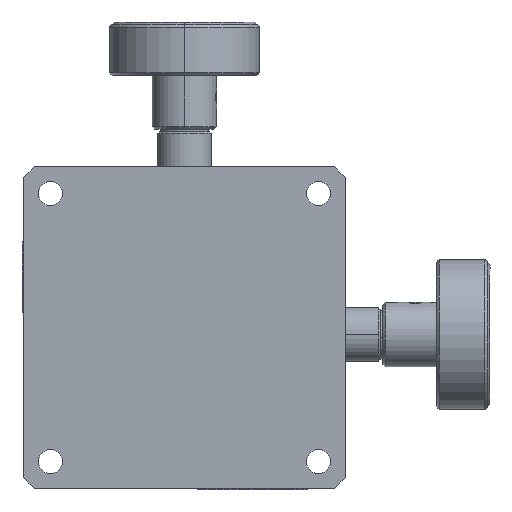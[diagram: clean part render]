
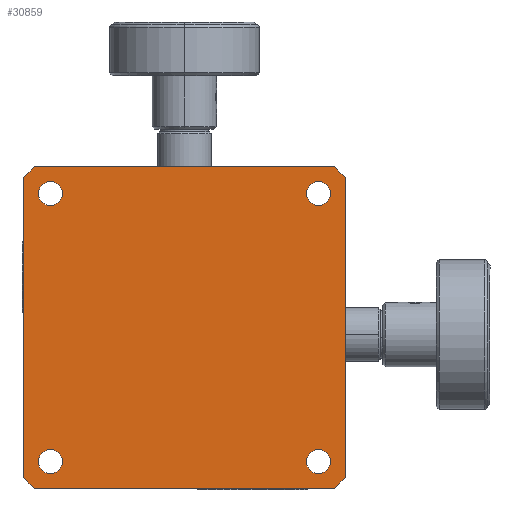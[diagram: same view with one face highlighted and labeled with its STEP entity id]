
A CAD part, front view. The second image highlights one B-rep face of the part: STEP entity #30859.
In plain terms, the highlighted planar face has unit normal (0, -1, 0).
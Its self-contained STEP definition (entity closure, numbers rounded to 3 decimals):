
#28 = VECTOR ( 'NONE', #36987, 1000. ) ;
#290 = CARTESIAN_POINT ( 'NONE',  ( 28., 0., -30. ) ) ;
#938 = AXIS2_PLACEMENT_3D ( 'NONE', #31775, #15721, #53347 ) ;
#987 = EDGE_CURVE ( 'NONE', #50481, #57556, #39465, .T. ) ;
#1346 = CARTESIAN_POINT ( 'NONE',  ( -28., 0., -30. ) ) ;
#2033 = DIRECTION ( 'NONE',  ( 0., 1., 0. ) ) ;
#2373 = DIRECTION ( 'NONE',  ( 0., 1., 0. ) ) ;
#2607 = EDGE_CURVE ( 'NONE', #57556, #50481, #22423, .T. ) ;
#3005 = ORIENTED_EDGE ( 'NONE', *, *, #46063, .T. ) ;
#3677 = ORIENTED_EDGE ( 'NONE', *, *, #59135, .F. ) ;
#4060 = LINE ( 'NONE', #21790, #59577 ) ;
#4122 = CARTESIAN_POINT ( 'NONE',  ( -27.25, 0., -25. ) ) ;
#5023 = CIRCLE ( 'NONE', #61079, 2.25 ) ;
#5026 = CARTESIAN_POINT ( 'NONE',  ( 30., 0., 28. ) ) ;
#5027 = CARTESIAN_POINT ( 'NONE',  ( -30., 0., -28. ) ) ;
#6255 = VECTOR ( 'NONE', #7024, 1000. ) ;
#7024 = DIRECTION ( 'NONE',  ( 0.707, 0., -0.707 ) ) ;
#8751 = EDGE_CURVE ( 'NONE', #46190, #37450, #28849, .T. ) ;
#8871 = CARTESIAN_POINT ( 'NONE',  ( 22.75, 0., 25. ) ) ;
#9264 = DIRECTION ( 'NONE',  ( 1., 0., 0. ) ) ;
#9714 = CARTESIAN_POINT ( 'NONE',  ( 25., 0., 25. ) ) ;
#9971 = CARTESIAN_POINT ( 'NONE',  ( 30., 0., 30. ) ) ;
#12767 = ORIENTED_EDGE ( 'NONE', *, *, #25109, .T. ) ;
#12866 = FACE_BOUND ( 'NONE', #59071, .T. ) ;
#13708 = CARTESIAN_POINT ( 'NONE',  ( 30., 0., -30. ) ) ;
#13745 = CIRCLE ( 'NONE', #29952, 2.25 ) ;
#14010 = ORIENTED_EDGE ( 'NONE', *, *, #50938, .T. ) ;
#14477 = CARTESIAN_POINT ( 'NONE',  ( -22.75, 0., 25. ) ) ;
#15085 = DIRECTION ( 'NONE',  ( 1., 0., 0. ) ) ;
#15672 = CARTESIAN_POINT ( 'NONE',  ( 27.25, 0., 25. ) ) ;
#15721 = DIRECTION ( 'NONE',  ( 0., -1., 0. ) ) ;
#16083 = ORIENTED_EDGE ( 'NONE', *, *, #51397, .F. ) ;
#18238 = VERTEX_POINT ( 'NONE', #34082 ) ;
#18265 = EDGE_CURVE ( 'NONE', #67298, #45121, #66794, .T. ) ;
#18933 = DIRECTION ( 'NONE',  ( 0., 1., 0. ) ) ;
#19284 = EDGE_CURVE ( 'NONE', #21824, #37941, #22919, .T. ) ;
#19525 = VECTOR ( 'NONE', #54539, 1000. ) ;
#19631 = CARTESIAN_POINT ( 'NONE',  ( -25., 0., 25. ) ) ;
#20437 = CIRCLE ( 'NONE', #27649, 2.25 ) ;
#20779 = DIRECTION ( 'NONE',  ( 0., 0., -1. ) ) ;
#20898 = ORIENTED_EDGE ( 'NONE', *, *, #21028, .T. ) ;
#21028 = EDGE_CURVE ( 'NONE', #27750, #29793, #5023, .T. ) ;
#21311 = CARTESIAN_POINT ( 'NONE',  ( 25., 0., 25. ) ) ;
#21326 = DIRECTION ( 'NONE',  ( 0., 1., 0. ) ) ;
#21790 = CARTESIAN_POINT ( 'NONE',  ( 29., 0., -29. ) ) ;
#21824 = VERTEX_POINT ( 'NONE', #5027 ) ;
#22423 = CIRCLE ( 'NONE', #64495, 2.25 ) ;
#22919 = LINE ( 'NONE', #43340, #19525 ) ;
#23258 = EDGE_CURVE ( 'NONE', #34704, #18238, #4060, .T. ) ;
#23421 = CARTESIAN_POINT ( 'NONE',  ( -1., 0., 59. ) ) ;
#24066 = ORIENTED_EDGE ( 'NONE', *, *, #8751, .T. ) ;
#25097 = DIRECTION ( 'NONE',  ( 1., 0., 0. ) ) ;
#25109 = EDGE_CURVE ( 'NONE', #63529, #66170, #47820, .T. ) ;
#25647 = AXIS2_PLACEMENT_3D ( 'NONE', #19631, #57248, #25097 ) ;
#26064 = EDGE_LOOP ( 'NONE', ( #20898, #3005 ) ) ;
#26761 = DIRECTION ( 'NONE',  ( 1., 0., 0. ) ) ;
#26836 = CARTESIAN_POINT ( 'NONE',  ( -29., 0., 29. ) ) ;
#27213 = FACE_BOUND ( 'NONE', #54412, .T. ) ;
#27649 = AXIS2_PLACEMENT_3D ( 'NONE', #53555, #21326, #58954 ) ;
#27750 = VERTEX_POINT ( 'NONE', #53406 ) ;
#28719 = LINE ( 'NONE', #26836, #28 ) ;
#28849 = LINE ( 'NONE', #23421, #41519 ) ;
#28913 = FACE_BOUND ( 'NONE', #26064, .T. ) ;
#29416 = CARTESIAN_POINT ( 'NONE',  ( -25., 0., -25. ) ) ;
#29793 = VERTEX_POINT ( 'NONE', #4122 ) ;
#29952 = AXIS2_PLACEMENT_3D ( 'NONE', #51176, #18933, #56553 ) ;
#30155 = CARTESIAN_POINT ( 'NONE',  ( -30., 0., 28. ) ) ;
#30859 = ADVANCED_FACE ( 'NONE', ( #59170, #27213, #28913, #12866, #68471 ), #36727, .T. ) ;
#31775 = CARTESIAN_POINT ( 'NONE',  ( -30., 0., 30. ) ) ;
#31930 = ORIENTED_EDGE ( 'NONE', *, *, #52992, .F. ) ;
#32002 = ORIENTED_EDGE ( 'NONE', *, *, #45643, .T. ) ;
#32407 = CARTESIAN_POINT ( 'NONE',  ( -28., 0., 30. ) ) ;
#33279 = CARTESIAN_POINT ( 'NONE',  ( 28., 0., 30. ) ) ;
#34082 = CARTESIAN_POINT ( 'NONE',  ( 30., 0., -28. ) ) ;
#34324 = CARTESIAN_POINT ( 'NONE',  ( 25., 0., -25. ) ) ;
#34662 = CARTESIAN_POINT ( 'NONE',  ( -25., 0., 25. ) ) ;
#34704 = VERTEX_POINT ( 'NONE', #290 ) ;
#34834 = DIRECTION ( 'NONE',  ( 1., 0., 0. ) ) ;
#34920 = LINE ( 'NONE', #39308, #6255 ) ;
#35708 = EDGE_CURVE ( 'NONE', #21824, #69375, #34920, .T. ) ;
#36727 = PLANE ( 'NONE',  #938 ) ;
#36987 = DIRECTION ( 'NONE',  ( -0.707, 0., -0.707 ) ) ;
#37450 = VERTEX_POINT ( 'NONE', #33279 ) ;
#37941 = VERTEX_POINT ( 'NONE', #30155 ) ;
#39308 = CARTESIAN_POINT ( 'NONE',  ( -59., 0., 1. ) ) ;
#39465 = CIRCLE ( 'NONE', #25647, 2.25 ) ;
#39765 = DIRECTION ( 'NONE',  ( 1., 0., 0. ) ) ;
#40102 = DIRECTION ( 'NONE',  ( 1., 0., 0. ) ) ;
#40537 = ORIENTED_EDGE ( 'NONE', *, *, #2607, .T. ) ;
#40845 = DIRECTION ( 'NONE',  ( -1., 0., 0. ) ) ;
#41102 = CARTESIAN_POINT ( 'NONE',  ( -27.25, 0., 25. ) ) ;
#41519 = VECTOR ( 'NONE', #60567, 1000. ) ;
#42174 = ORIENTED_EDGE ( 'NONE', *, *, #18265, .T. ) ;
#42333 = AXIS2_PLACEMENT_3D ( 'NONE', #21311, #58939, #26761 ) ;
#42481 = ORIENTED_EDGE ( 'NONE', *, *, #69190, .T. ) ;
#43340 = CARTESIAN_POINT ( 'NONE',  ( -30., 0., 30. ) ) ;
#44117 = AXIS2_PLACEMENT_3D ( 'NONE', #9714, #47403, #15085 ) ;
#45064 = ORIENTED_EDGE ( 'NONE', *, *, #987, .T. ) ;
#45121 = VERTEX_POINT ( 'NONE', #54299 ) ;
#45383 = VECTOR ( 'NONE', #20779, 1000. ) ;
#45643 = EDGE_CURVE ( 'NONE', #45121, #67298, #20437, .T. ) ;
#46063 = EDGE_CURVE ( 'NONE', #29793, #27750, #13745, .T. ) ;
#46190 = VERTEX_POINT ( 'NONE', #5026 ) ;
#46735 = CARTESIAN_POINT ( 'NONE',  ( 30., 0., 30. ) ) ;
#47403 = DIRECTION ( 'NONE',  ( 0., 1., 0. ) ) ;
#47820 = CIRCLE ( 'NONE', #44117, 2.25 ) ;
#48866 = DIRECTION ( 'NONE',  ( 0.707, 0., 0.707 ) ) ;
#50158 = VECTOR ( 'NONE', #9264, 1000. ) ;
#50200 = VECTOR ( 'NONE', #40845, 1000. ) ;
#50481 = VERTEX_POINT ( 'NONE', #14477 ) ;
#50938 = EDGE_CURVE ( 'NONE', #66170, #63529, #56299, .T. ) ;
#51013 = VERTEX_POINT ( 'NONE', #32407 ) ;
#51176 = CARTESIAN_POINT ( 'NONE',  ( -25., 0., -25. ) ) ;
#51397 = EDGE_CURVE ( 'NONE', #46190, #18238, #61306, .T. ) ;
#51847 = LINE ( 'NONE', #46735, #50158 ) ;
#52992 = EDGE_CURVE ( 'NONE', #34704, #69375, #66195, .T. ) ;
#53347 = DIRECTION ( 'NONE',  ( -1., 0., 0. ) ) ;
#53406 = CARTESIAN_POINT ( 'NONE',  ( -22.75, 0., -25. ) ) ;
#53555 = CARTESIAN_POINT ( 'NONE',  ( 25., 0., -25. ) ) ;
#54299 = CARTESIAN_POINT ( 'NONE',  ( 27.25, 0., -25. ) ) ;
#54412 = EDGE_LOOP ( 'NONE', ( #45064, #40537 ) ) ;
#54539 = DIRECTION ( 'NONE',  ( 0., 0., 1. ) ) ;
#55037 = AXIS2_PLACEMENT_3D ( 'NONE', #34324, #2033, #39765 ) ;
#56299 = CIRCLE ( 'NONE', #42333, 2.25 ) ;
#56553 = DIRECTION ( 'NONE',  ( 1., 0., 0. ) ) ;
#56866 = ORIENTED_EDGE ( 'NONE', *, *, #23258, .T. ) ;
#57248 = DIRECTION ( 'NONE',  ( 0., 1., 0. ) ) ;
#57556 = VERTEX_POINT ( 'NONE', #41102 ) ;
#58066 = EDGE_LOOP ( 'NONE', ( #3677, #42481, #64097, #69458, #31930, #56866, #16083, #24066 ) ) ;
#58939 = DIRECTION ( 'NONE',  ( 0., 1., 0. ) ) ;
#58954 = DIRECTION ( 'NONE',  ( 1., 0., 0. ) ) ;
#59071 = EDGE_LOOP ( 'NONE', ( #32002, #42174 ) ) ;
#59135 = EDGE_CURVE ( 'NONE', #51013, #37450, #51847, .T. ) ;
#59170 = FACE_BOUND ( 'NONE', #64605, .T. ) ;
#59577 = VECTOR ( 'NONE', #48866, 1000. ) ;
#60567 = DIRECTION ( 'NONE',  ( -0.707, 0., 0.707 ) ) ;
#61079 = AXIS2_PLACEMENT_3D ( 'NONE', #29416, #67044, #34834 ) ;
#61306 = LINE ( 'NONE', #9971, #45383 ) ;
#63529 = VERTEX_POINT ( 'NONE', #8871 ) ;
#64097 = ORIENTED_EDGE ( 'NONE', *, *, #19284, .F. ) ;
#64495 = AXIS2_PLACEMENT_3D ( 'NONE', #34662, #2373, #40102 ) ;
#64605 = EDGE_LOOP ( 'NONE', ( #14010, #12767 ) ) ;
#66170 = VERTEX_POINT ( 'NONE', #15672 ) ;
#66195 = LINE ( 'NONE', #13708, #50200 ) ;
#66794 = CIRCLE ( 'NONE', #55037, 2.25 ) ;
#67014 = CARTESIAN_POINT ( 'NONE',  ( 22.75, 0., -25. ) ) ;
#67044 = DIRECTION ( 'NONE',  ( 0., 1., 0. ) ) ;
#67298 = VERTEX_POINT ( 'NONE', #67014 ) ;
#68471 = FACE_OUTER_BOUND ( 'NONE', #58066, .T. ) ;
#69190 = EDGE_CURVE ( 'NONE', #51013, #37941, #28719, .T. ) ;
#69375 = VERTEX_POINT ( 'NONE', #1346 ) ;
#69458 = ORIENTED_EDGE ( 'NONE', *, *, #35708, .T. ) ;
